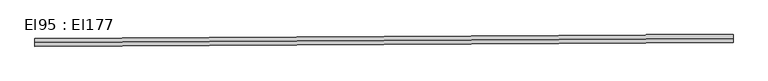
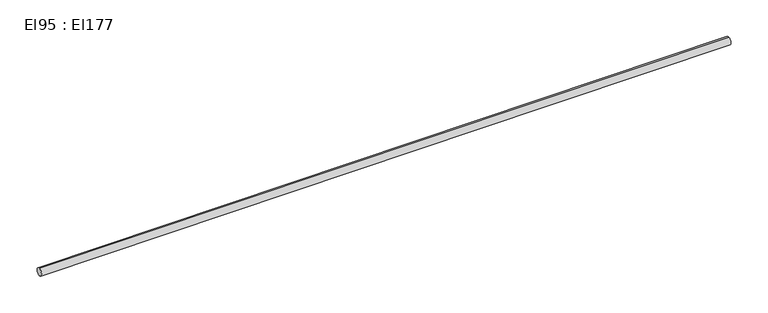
"""IFC4 building model written with IfcOpenShell, lengths in millimetres: cable carrier segment geometry, El95 : El177."""

from ifc_helpers import new_model, si_unit, point, frame, frame_2d, origin, place, context, project, spatial, circle_curve, trimmed, segment, composite_curve, outline, extrude, source, transform, mapped, element, save


def el95_el177_853e290b(model_context):
    return source(origin(), model_context, "Body", "SweptSolid", [
        extrude(outline(composite_curve([segment(trimmed(circle_curve(frame_2d((0.0, -9.5)), 9.5), [point((0.0, -19.0))], [point((0.0, 0.0))], False, "CARTESIAN"), True, "CONTINUOUS"), segment(trimmed(circle_curve(frame_2d((0.0, -9.5)), 9.5), [point((0.0, 0.0))], [point((0.0, -19.0))], False, "CARTESIAN"), True, "CONTINUOUS")], self_intersect=False)), frame((719.7576511, 25666.1067545, 1809.5), z_axis=(0.9999839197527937, 0.00567099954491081, 0.0), x_axis=(-0.00567099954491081, 0.9999839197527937, 0.0)), (0.0, 0.0, 1.0), 1730.0),
    ])


if __name__ == "__main__":
    model = new_model("IFC4")
    model_context = context("Model", 3, world=origin())
    ifc_project = project(units=[si_unit("LENGTHUNIT", "METRE", prefix="MILLI")], contexts=[model_context])
    site = spatial("IfcSite", under=ifc_project)
    building = spatial("IfcBuilding", under=site)
    placement = place(None, origin())
    el95_el177_shape = el95_el177_853e290b(model_context)
    element("IfcCableCarrierSegment", 1, ObjectType="El95 : El177", at=placement, inside=building, context=model_context, shape_type="MappedRepresentation", body=[
        mapped(el95_el177_shape, transform((0.0, 0.0, 0.0), x_axis=(1.0, 0.0, 0.0), y_axis=(0.0, 1.0, 0.0), z_axis=(0.0, 0.0, 1.0))),
    ])
    save(model, "model.ifc")
